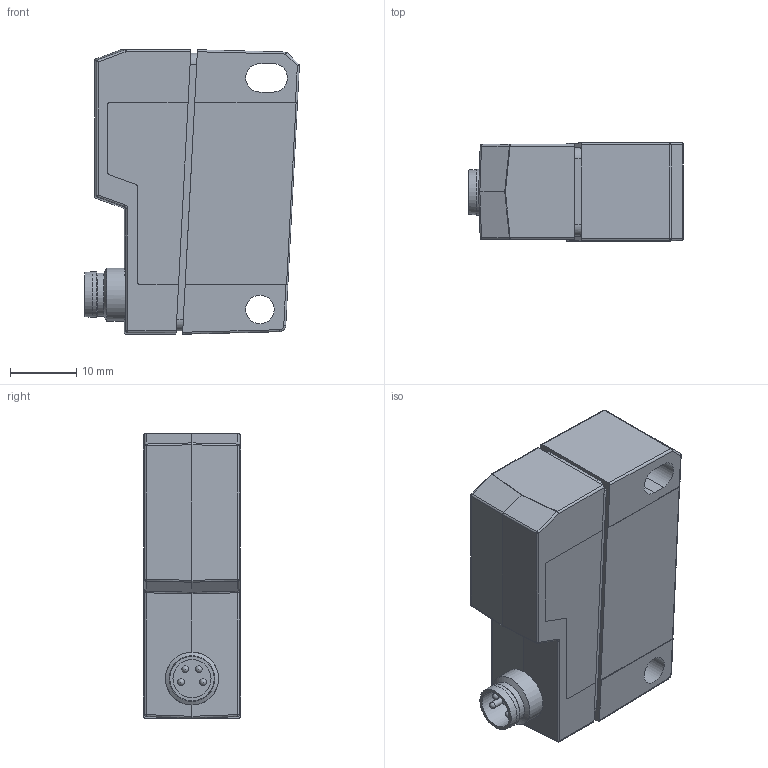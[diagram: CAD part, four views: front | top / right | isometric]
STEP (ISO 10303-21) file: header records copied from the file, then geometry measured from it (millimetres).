
FILE_DESCRIPTION( ( 'Unknown' ), '1' );
FILE_NAME( '//baumerholding.org/frauenfeld/bereich/BECH/Services/me_CAD/Solid Edge/Models/Dokumentationen/Opto/xxDK 14_2009/Vereinfachte Modelle/Neutralformate/xxDK_14_KeinAntrieb_S35A.stp', 'Unknown', ( 'Unknown' ), ( 'Unknown' ), 'XStep 1.0', 'Unknown', ' ' );
FILE_SCHEMA( ( 'automotive_design' ) );
Length unit declared in the file: millimetre
Products named in the file (1): Frontteil
Bounding box: 32.45 x 14.8 x 43 mm (x, y, z)
Volume: 16651.9 mm3; surface area: 5163 mm2
Topology: 1 solids, 1 shells, 137 faces, 336 edges, 203 vertices
Faces by surface type: cylinder 60, plane 54, sphere 16, cone 3, torus 2, bspline 2
Full cylindrical faces by diameter (mm): 1 x4, 4.3 x1, 5.77 x1, 6.5 x1, 6.9 x1, 8 x1
Entity records: 5007 total; most frequent: CARTESIAN_POINT 741, DIRECTION 699, ORIENTED_EDGE 612, EDGE_CURVE 306, AXIS2_PLACEMENT_3D 257, VERTEX_POINT 191, LINE 185, VECTOR 185
